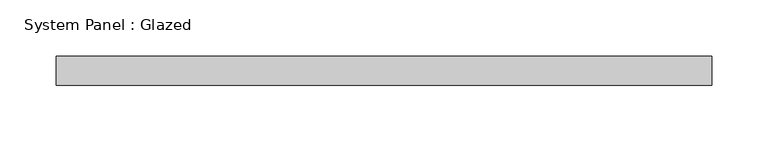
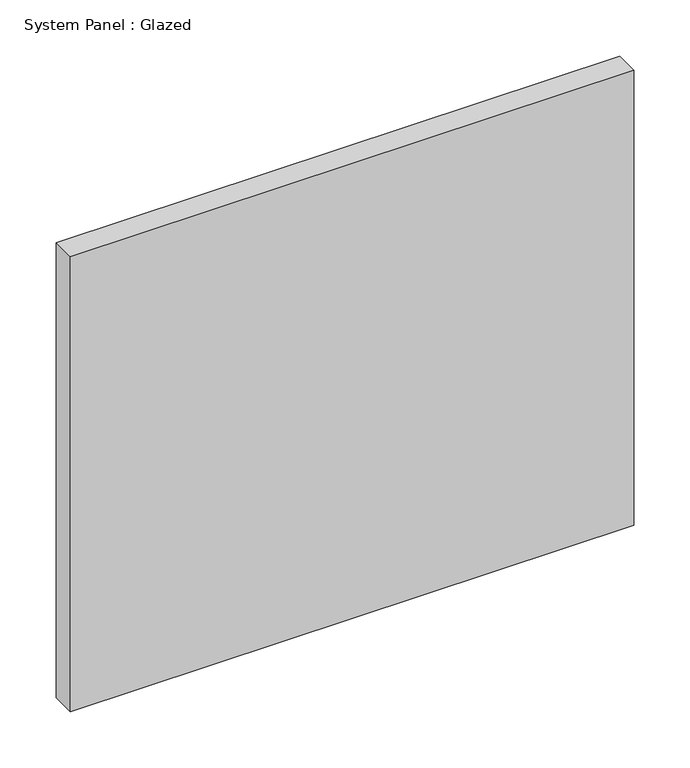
"""IFC4 building model written with IfcOpenShell, lengths in millimetres: plate geometry, System Panel : Glazed."""

from ifc_helpers import new_model, si_unit, origin, origin_with_axes, place, context, project, spatial, polyline, outline, extrude, source, transform, mapped, element, save


def system_panel_glazed_f5be7441(model_context):
    return source(origin(), model_context, "Body", "SweptSolid", [
        extrude(outline(polyline([(290.0430515, -12.7), (-290.0430515, -12.7), (-290.0430515, 12.7), (290.0430515, 12.7), (290.0430515, -12.7)])), origin_with_axes(), (0.0, 0.0, 1.0), 495.3),
    ])


if __name__ == "__main__":
    model = new_model("IFC4")
    model_context = context("Model", 3, world=origin())
    ifc_project = project(units=[si_unit("LENGTHUNIT", "METRE", prefix="MILLI")], contexts=[model_context])
    site = spatial("IfcSite", under=ifc_project)
    building = spatial("IfcBuilding", under=site)
    placement = place(None, origin())
    system_panel_glazed_shape = system_panel_glazed_f5be7441(model_context)
    element("IfcPlate", 1, ObjectType="System Panel : Glazed", at=placement, inside=building, context=model_context, shape_type="MappedRepresentation", body=[
        mapped(system_panel_glazed_shape, transform((0.0, 0.0, 0.0), x_axis=(1.0, 0.0, 0.0), y_axis=(0.0, 1.0, 0.0), z_axis=(0.0, 0.0, 1.0))),
    ])
    save(model, "model.ifc")
